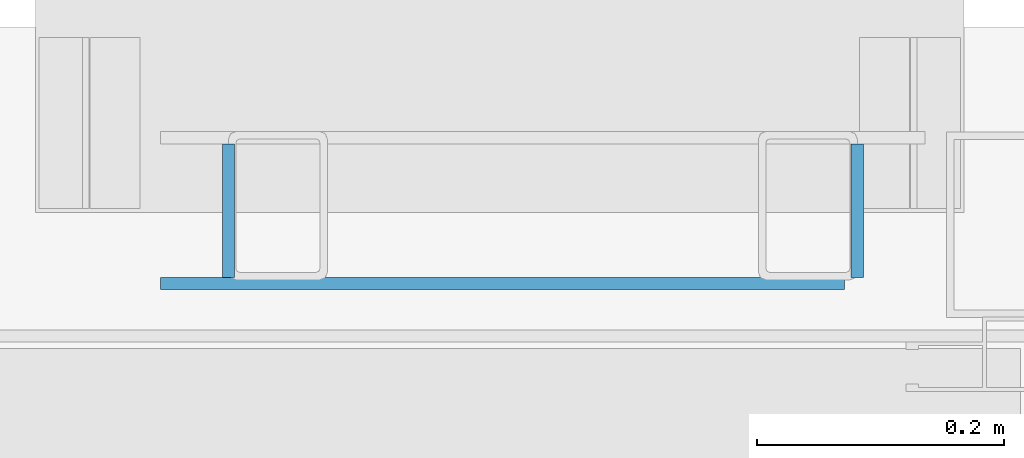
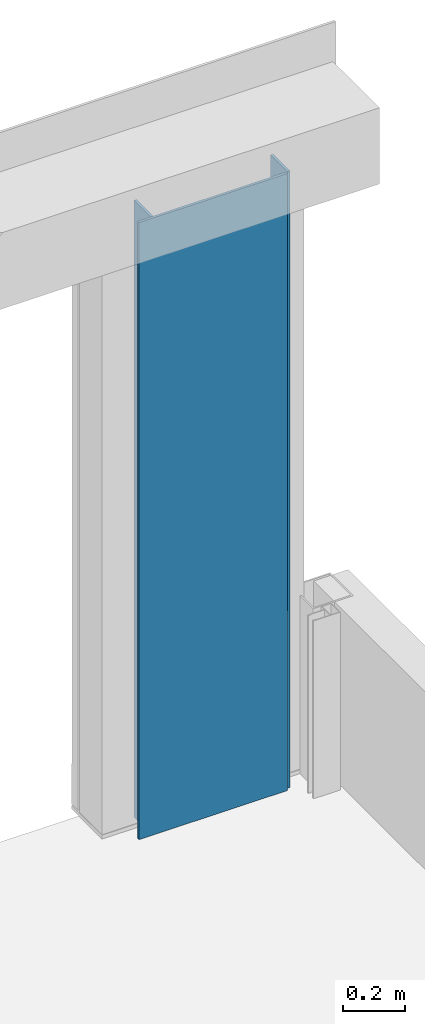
# One storey, part 12 of 26: 3 plates, 3 elements without a shape of their own.
"""IFC2X3 building model written with IfcOpenShell, lengths in millimetres."""

from ifc_helpers import new_model, entity, si_unit, converted_unit, derived_unit, direction, frame, frame_2d, origin, origin_with_axes, origin_2d_with_axis, place, context, subcontext, project, spatial, rectangle, extrude, source, transform, mapped, material, type_object, element, aggregate, save


model = new_model("IFC2X3")

# Units and contexts
model_context = context("Model", 3, precision=0.01, world=frame((0.0, 4.29681676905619e-09, 0.0)), true_north=direction((4.01073788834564e-13, 1.0)))
plan_context = context("Plan", 3, precision=0.01, world=frame((0.0, 4.29681676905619e-09, 0.0)), true_north=direction((4.01073788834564e-13, 1.0)))
body_context = subcontext(model_context, "Body", "Model", "MODEL_VIEW")
ifc_project = project(units=[converted_unit("PLANEANGLEUNIT", "DEGREE", entity("IfcPositiveLengthMeasure", 0.0174532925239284), si_unit("PLANEANGLEUNIT", "RADIAN"), dimensions=[0, 0, 0, 0, 0, 0, 0]), si_unit("AREAUNIT", "SQUARE_METRE"), si_unit("LENGTHUNIT", "METRE", prefix="MILLI"), si_unit("MASSUNIT", "GRAM", prefix="KILO"), si_unit("POWERUNIT", "WATT"), si_unit("PRESSUREUNIT", "PASCAL", prefix="KILO"), si_unit("FORCEUNIT", "NEWTON", prefix="KILO"), si_unit("ELECTRICVOLTAGEUNIT", "VOLT"), si_unit("ELECTRICCURRENTUNIT", "AMPERE"), si_unit("THERMODYNAMICTEMPERATUREUNIT", "DEGREE_CELSIUS"), si_unit("TIMEUNIT", "SECOND"), si_unit("VOLUMEUNIT", "CUBIC_METRE"), derived_unit("LINEARVELOCITYUNIT", [(si_unit("LENGTHUNIT", "METRE"), 1), (si_unit("TIMEUNIT", "SECOND"), -1)]), derived_unit("VOLUMETRICFLOWRATEUNIT", [(si_unit("VOLUMEUNIT", "CUBIC_METRE"), 1), (si_unit("TIMEUNIT", "SECOND"), -1)]), derived_unit("THERMALTRANSMITTANCEUNIT", [(si_unit("POWERUNIT", "WATT"), 1), (si_unit("THERMODYNAMICTEMPERATUREUNIT", "KELVIN"), -1), (si_unit("AREAUNIT", "SQUARE_METRE"), -1)]), derived_unit("SOUNDPRESSUREUNIT", [(si_unit("PRESSUREUNIT", "PASCAL"), 1)])], contexts=[model_context, plan_context])

# Site, building, storey
site_placement = place(None, origin_with_axes())
site = spatial("IfcSite", under=ifc_project, at=site_placement, Name="ENGM", CompositionType="ELEMENT")
building_placement = place(site_placement, origin_with_axes())
building = spatial("IfcBuilding", under=site, at=building_placement, Name="TG", CompositionType="ELEMENT")
storey_placement = place(building_placement, frame((0.0, 0.0, 210200.0), z_axis=(0.0, 0.0, 1.0), x_axis=(1.0, 0.0, 0.0)))
storey = spatial("IfcBuildingStorey", under=building, at=storey_placement, Name="Nivå F - 0,7 m", CompositionType="ELEMENT", Elevation=210200.0)

# Curtain wall, plate
curtain_wall_type_1 = type_object("IfcCurtainWallType", Name="Curtain Wall:A245 - IMK - Metal Kledning", PredefinedType="NOTDEFINED")
curtain_wall_1_placement = place(storey_placement, frame((0.0, 0.0, -210200.0), z_axis=(0.0, 0.0, 1.0), x_axis=(1.0, 0.0, 0.0)))
curtain_wall_1 = element("IfcCurtainWall", 1, at=curtain_wall_1_placement, inside=storey, type_object=curtain_wall_type_1, Name="Curtain Wall:A245 - IMK - Metal Kledning", ObjectType="Curtain Wall:A245 - IMK - Metal Kledning")
ifc_material_1 = material(Name="Metal - Preget plate")
plate_type_1 = type_object("IfcPlateType", Name="System Panel:A245 - KL-M00 - - - skal byttes manuelt", PredefinedType="CURTAIN_PANEL", material=ifc_material_1)
shared_shape_1 = source(origin(), body_context, "Body", "SweptSolid", [
    extrude(rectangle(XDim=10.0, YDim=107.999999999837, at=frame_2d((8.88178419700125e-16, 0.0), x_axis=(1.0, 0.0))), frame((0.0, 10.0, 0.0), z_axis=(0.0, 0.0, 1.0), x_axis=(0.0, 1.0, 0.0)), (0.0, 0.0, 1.0), 2430.0),
])
plate_1_placement = place(curtain_wall_1_placement, frame((348793.454194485, 467351.451223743, 210200.0), z_axis=(0.0, 0.0, 1.0), x_axis=(0.0, 1.0, 0.0)))
plate_1 = element("IfcPlate", 2, at=plate_1_placement, type_object=plate_type_1, material=ifc_material_1, Name="System Panel:A245 - KL-M00 - - - skal byttes manuelt", ObjectType="System Panel:A245 - KL-M00 - - - skal byttes manuelt", context=body_context, shape_type="MappedRepresentation", body=[
    mapped(shared_shape_1, transform((0.0, 0.0, 0.0), scale=1.0)),
])
aggregate(curtain_wall_1, [plate_1])

curtain_wall_type_2 = type_object("IfcCurtainWallType", Name="Curtain Wall:A245 - IGK - Glass Kledning", PredefinedType="NOTDEFINED")
curtain_wall_2_placement = place(storey_placement, frame((0.0, 0.0, -210200.0), z_axis=(0.0, 0.0, 1.0), x_axis=(1.0, 0.0, 0.0)))
curtain_wall_2 = element("IfcCurtainWall", 3, at=curtain_wall_2_placement, inside=storey, type_object=curtain_wall_type_2, Name="Curtain Wall:A245 - IGK - Glass Kledning", ObjectType="Curtain Wall:A245 - IGK - Glass Kledning")
ifc_material_2 = material(Name="Glasskledning, silketrykket")
plate_type_2 = type_object("IfcPlateType", Name="System Panel:A245 - KL-G00 - - - skal byttes manuelt", PredefinedType="CURTAIN_PANEL", material=ifc_material_2)
shared_shape_2 = source(origin(), body_context, "Body", "SweptSolid", [
    extrude(rectangle(XDim=10.0, YDim=553.545805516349, at=origin_2d_with_axis()), frame((0.0, 5.0, 0.0), z_axis=(0.0, 0.0, 1.0), x_axis=(0.0, 1.0, 0.0)), (0.0, 0.0, 1.0), 2430.0),
])
plate_2_placement = place(curtain_wall_2_placement, frame((348496.227097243, 467287.451223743, 210200.0), z_axis=(0.0, 0.0, 1.0), x_axis=(1.0, 0.0, 0.0)))
plate_2 = element("IfcPlate", 4, at=plate_2_placement, type_object=plate_type_2, material=ifc_material_2, Name="System Panel:A245 - KL-G00 - - - skal byttes manuelt", ObjectType="System Panel:A245 - KL-G00 - - - skal byttes manuelt", context=body_context, shape_type="MappedRepresentation", body=[
    mapped(shared_shape_2, transform((0.0, 0.0, 0.0), scale=1.0)),
])
aggregate(curtain_wall_2, [plate_2])

curtain_wall_3_placement = place(storey_placement, frame((0.0, 0.0, -210200.0), z_axis=(0.0, 0.0, 1.0), x_axis=(1.0, 0.0, 0.0)))
curtain_wall_3 = element("IfcCurtainWall", 5, at=curtain_wall_3_placement, inside=storey, type_object=curtain_wall_type_1, Name="Curtain Wall:A245 - IMK - Metal Kledning", ObjectType="Curtain Wall:A245 - IMK - Metal Kledning")
plate_type_3 = type_object("IfcPlateType", Name="System Panel:A245 - KL-M00 - - - skal byttes manuelt", PredefinedType="CURTAIN_PANEL", material=ifc_material_1)
shared_shape_3 = source(origin(), body_context, "Body", "SweptSolid", [
    extrude(rectangle(XDim=10.0, YDim=107.999999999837, at=frame_2d((4.44089209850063e-16, 0.0), x_axis=(1.0, 0.0))), frame((0.0, -10.0, 0.0), z_axis=(0.0, 0.0, 1.0), x_axis=(0.0, 1.0, 0.0)), (0.0, 0.0, 1.0), 2430.0),
])
plate_3_placement = place(curtain_wall_3_placement, frame((348264.454194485, 467351.451223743, 210200.0), z_axis=(0.0, 0.0, 1.0), x_axis=(0.0, 1.0, 0.0)))
plate_3 = element("IfcPlate", 6, at=plate_3_placement, type_object=plate_type_3, material=ifc_material_1, Name="System Panel:A245 - KL-M00 - - - skal byttes manuelt", ObjectType="System Panel:A245 - KL-M00 - - - skal byttes manuelt", context=body_context, shape_type="MappedRepresentation", body=[
    mapped(shared_shape_3, transform((0.0, 0.0, 0.0), scale=1.0)),
])
aggregate(curtain_wall_3, [plate_3])

save(model, "model.ifc")
